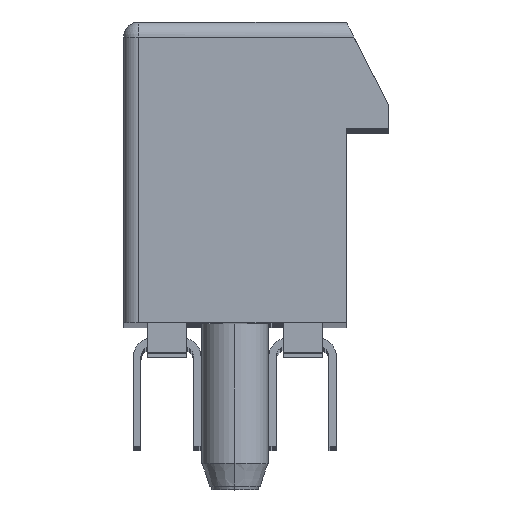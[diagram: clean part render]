
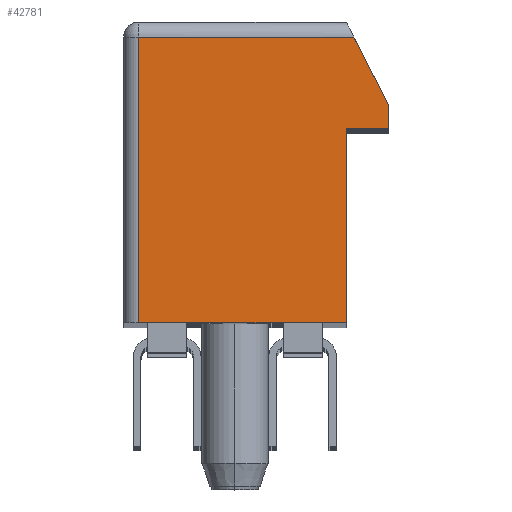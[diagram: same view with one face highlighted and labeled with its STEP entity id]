
A CAD part, top view. The second image highlights one B-rep face of the part: STEP entity #42781.
In plain terms, the highlighted planar face has unit normal (0, 0, 1).
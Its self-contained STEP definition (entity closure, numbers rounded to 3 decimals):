
#478 = VERTEX_POINT ( 'NONE', #28597 ) ;
#714 = DIRECTION ( 'NONE',  ( 0., -1., 0. ) ) ;
#2450 = ORIENTED_EDGE ( 'NONE', *, *, #52605, .T. ) ;
#4600 = LINE ( 'NONE', #64181, #26104 ) ;
#6334 = DIRECTION ( 'NONE',  ( 1., 0., 0. ) ) ;
#7706 = EDGE_CURVE ( 'NONE', #20809, #478, #59651, .T. ) ;
#8108 = EDGE_LOOP ( 'NONE', ( #2450, #49753, #9044, #24807, #16394, #44738, #65364 ) ) ;
#9044 = ORIENTED_EDGE ( 'NONE', *, *, #57693, .T. ) ;
#10540 = LINE ( 'NONE', #51206, #22967 ) ;
#12208 = CARTESIAN_POINT ( 'NONE',  ( 5.1, 7.25, 89. ) ) ;
#13164 = LINE ( 'NONE', #67702, #66235 ) ;
#13239 = EDGE_CURVE ( 'NONE', #478, #47953, #31756, .T. ) ;
#13980 = CARTESIAN_POINT ( 'NONE',  ( 3.7, 10., 89. ) ) ;
#15112 = VECTOR ( 'NONE', #37934, 1000. ) ;
#15430 = DIRECTION ( 'NONE',  ( 1., 0., 0. ) ) ;
#16394 = ORIENTED_EDGE ( 'NONE', *, *, #13239, .T. ) ;
#20809 = VERTEX_POINT ( 'NONE', #56813 ) ;
#20909 = FACE_OUTER_BOUND ( 'NONE', #8108, .T. ) ;
#21844 = CARTESIAN_POINT ( 'NONE',  ( -3.7, 0., 89. ) ) ;
#22967 = VECTOR ( 'NONE', #56539, 1000. ) ;
#24184 = CARTESIAN_POINT ( 'NONE',  ( -3.2, 0., 89. ) ) ;
#24807 = ORIENTED_EDGE ( 'NONE', *, *, #7706, .T. ) ;
#26104 = VECTOR ( 'NONE', #714, 1000. ) ;
#26803 = EDGE_CURVE ( 'NONE', #54642, #55884, #4600, .T. ) ;
#28597 = CARTESIAN_POINT ( 'NONE',  ( 3.7, 6.45, 89. ) ) ;
#29241 = EDGE_CURVE ( 'NONE', #47953, #67373, #13164, .T. ) ;
#30899 = LINE ( 'NONE', #21844, #15112 ) ;
#31756 = LINE ( 'NONE', #52356, #44319 ) ;
#33365 = VECTOR ( 'NONE', #66811, 1000. ) ;
#37934 = DIRECTION ( 'NONE',  ( 1., 0., 0. ) ) ;
#38096 = EDGE_CURVE ( 'NONE', #67373, #38771, #50855, .T. ) ;
#38130 = DIRECTION ( 'NONE',  ( 0., 0., 1. ) ) ;
#38771 = VERTEX_POINT ( 'NONE', #67869 ) ;
#41291 = CARTESIAN_POINT ( 'NONE',  ( 5.1, 6.45, 89. ) ) ;
#42781 = ADVANCED_FACE ( 'NONE', ( #20909 ), #48580, .T. ) ;
#44319 = VECTOR ( 'NONE', #15430, 1000. ) ;
#44738 = ORIENTED_EDGE ( 'NONE', *, *, #29241, .T. ) ;
#45888 = DIRECTION ( 'NONE',  ( 0., 1., 0. ) ) ;
#46046 = CARTESIAN_POINT ( 'NONE',  ( 3.7, 6.45, 89. ) ) ;
#47953 = VERTEX_POINT ( 'NONE', #41291 ) ;
#48580 = PLANE ( 'NONE',  #52536 ) ;
#49753 = ORIENTED_EDGE ( 'NONE', *, *, #26803, .T. ) ;
#50855 = LINE ( 'NONE', #13980, #33365 ) ;
#51206 = CARTESIAN_POINT ( 'NONE',  ( -3.7, 9.5, 89. ) ) ;
#52356 = CARTESIAN_POINT ( 'NONE',  ( 5.1, 6.45, 89. ) ) ;
#52536 = AXIS2_PLACEMENT_3D ( 'NONE', #64495, #38130, #6334 ) ;
#52605 = EDGE_CURVE ( 'NONE', #38771, #54642, #10540, .T. ) ;
#54642 = VERTEX_POINT ( 'NONE', #57226 ) ;
#55884 = VERTEX_POINT ( 'NONE', #24184 ) ;
#56539 = DIRECTION ( 'NONE',  ( -1., 0., 0. ) ) ;
#56813 = CARTESIAN_POINT ( 'NONE',  ( 3.7, 0., 89. ) ) ;
#57226 = CARTESIAN_POINT ( 'NONE',  ( -3.2, 9.5, 89. ) ) ;
#57693 = EDGE_CURVE ( 'NONE', #55884, #20809, #30899, .T. ) ;
#58004 = VECTOR ( 'NONE', #45888, 1000. ) ;
#59651 = LINE ( 'NONE', #46046, #58004 ) ;
#62473 = DIRECTION ( 'NONE',  ( 0., 1., 0. ) ) ;
#64181 = CARTESIAN_POINT ( 'NONE',  ( -3.2, 0., 89. ) ) ;
#64495 = CARTESIAN_POINT ( 'NONE',  ( 0., 0., 89. ) ) ;
#65364 = ORIENTED_EDGE ( 'NONE', *, *, #38096, .T. ) ;
#66235 = VECTOR ( 'NONE', #62473, 1000. ) ;
#66811 = DIRECTION ( 'NONE',  ( -0.454, 0.891, 0. ) ) ;
#67373 = VERTEX_POINT ( 'NONE', #12208 ) ;
#67702 = CARTESIAN_POINT ( 'NONE',  ( 5.1, 7.25, 89. ) ) ;
#67869 = CARTESIAN_POINT ( 'NONE',  ( 3.955, 9.5, 89. ) ) ;
